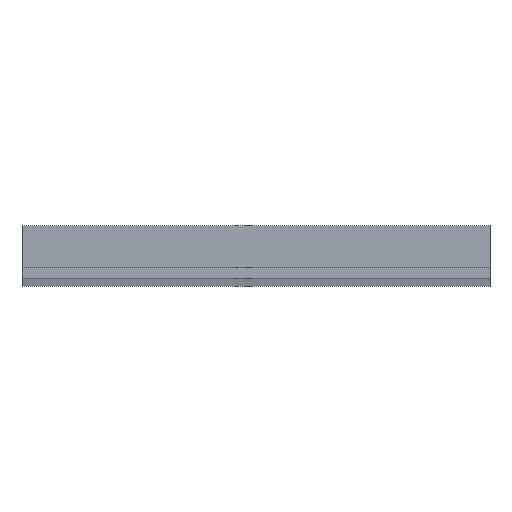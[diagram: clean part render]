
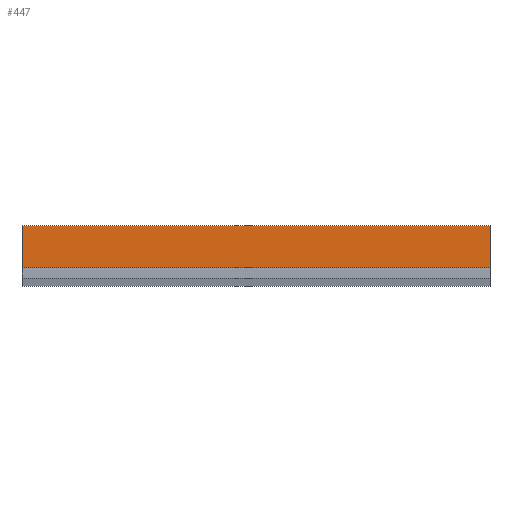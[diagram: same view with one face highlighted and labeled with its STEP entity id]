
A CAD part, top view. The second image highlights one B-rep face of the part: STEP entity #447.
In plain terms, the highlighted planar face has unit normal (0, 0, 1).
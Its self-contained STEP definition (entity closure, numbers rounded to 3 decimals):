
#51 = CARTESIAN_POINT ( 'NONE',  ( 200., -4.41, 9.344 ) ) ;
#69 = CARTESIAN_POINT ( 'NONE',  ( 200., 13.59, 9.344 ) ) ;
#76 = CARTESIAN_POINT ( 'NONE',  ( 0., 13.59, 9.344 ) ) ;
#95 = VECTOR ( 'NONE', #1216, 1000. ) ;
#149 = CARTESIAN_POINT ( 'NONE',  ( 200., -4.41, 9.344 ) ) ;
#349 = ORIENTED_EDGE ( 'NONE', *, *, #627, .T. ) ;
#362 = VERTEX_POINT ( 'NONE', #1048 ) ;
#410 = LINE ( 'NONE', #797, #825 ) ;
#420 = DIRECTION ( 'NONE',  ( -1., 0., 0. ) ) ;
#425 = LINE ( 'NONE', #1203, #793 ) ;
#435 = AXIS2_PLACEMENT_3D ( 'NONE', #69, #1205, #1109 ) ;
#447 = ADVANCED_FACE ( 'NONE', ( #1194 ), #743, .F. ) ;
#498 = ORIENTED_EDGE ( 'NONE', *, *, #1031, .T. ) ;
#577 = ORIENTED_EDGE ( 'NONE', *, *, #1098, .F. ) ;
#627 = EDGE_CURVE ( 'NONE', #362, #634, #425, .T. ) ;
#634 = VERTEX_POINT ( 'NONE', #76 ) ;
#640 = EDGE_LOOP ( 'NONE', ( #498, #577, #1148, #349 ) ) ;
#679 = EDGE_CURVE ( 'NONE', #362, #1075, #739, .T. ) ;
#739 = LINE ( 'NONE', #1210, #95 ) ;
#743 = PLANE ( 'NONE',  #435 ) ;
#793 = VECTOR ( 'NONE', #1102, 1000. ) ;
#797 = CARTESIAN_POINT ( 'NONE',  ( 0., 13.59, 9.344 ) ) ;
#825 = VECTOR ( 'NONE', #847, 1000. ) ;
#847 = DIRECTION ( 'NONE',  ( 0., -1., 0. ) ) ;
#1031 = EDGE_CURVE ( 'NONE', #634, #1052, #410, .T. ) ;
#1048 = CARTESIAN_POINT ( 'NONE',  ( 200., 13.59, 9.344 ) ) ;
#1052 = VERTEX_POINT ( 'NONE', #1130 ) ;
#1075 = VERTEX_POINT ( 'NONE', #149 ) ;
#1098 = EDGE_CURVE ( 'NONE', #1075, #1052, #1106, .T. ) ;
#1099 = VECTOR ( 'NONE', #420, 1000. ) ;
#1102 = DIRECTION ( 'NONE',  ( -1., 0., 0. ) ) ;
#1106 = LINE ( 'NONE', #51, #1099 ) ;
#1109 = DIRECTION ( 'NONE',  ( -1., 0., 0. ) ) ;
#1130 = CARTESIAN_POINT ( 'NONE',  ( 0., -4.41, 9.344 ) ) ;
#1148 = ORIENTED_EDGE ( 'NONE', *, *, #679, .F. ) ;
#1194 = FACE_OUTER_BOUND ( 'NONE', #640, .T. ) ;
#1203 = CARTESIAN_POINT ( 'NONE',  ( 200., 13.59, 9.344 ) ) ;
#1205 = DIRECTION ( 'NONE',  ( 0., 0., -1. ) ) ;
#1210 = CARTESIAN_POINT ( 'NONE',  ( 200., 13.59, 9.344 ) ) ;
#1216 = DIRECTION ( 'NONE',  ( 0., -1., 0. ) ) ;
